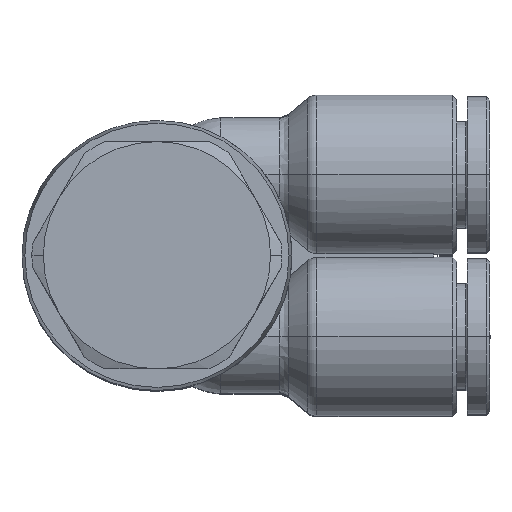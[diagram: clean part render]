
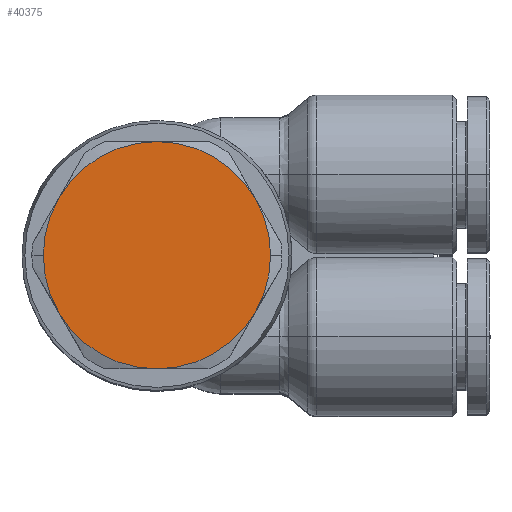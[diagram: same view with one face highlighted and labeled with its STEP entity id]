
A CAD part, top view. The second image highlights one B-rep face of the part: STEP entity #40375.
In plain terms, the highlighted planar face has unit normal (0, 0, 1).
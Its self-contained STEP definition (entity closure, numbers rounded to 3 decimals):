
#3391=CARTESIAN_POINT('',(-7.5,5.7,12.));
#3392=VERTEX_POINT('',#3391);
#3400=CARTESIAN_POINT('',(-6.428,1.7,12.));
#3401=VERTEX_POINT('',#3400);
#3415=CARTESIAN_POINT('',(0.5,5.7,12.));
#3416=DIRECTION('',(0.0,0.0,1.0));
#3417=DIRECTION('',(1.0,0.0,0.0));
#3418=AXIS2_PLACEMENT_3D('',#3415,#3416,#3417);
#3419=CIRCLE('',#3418,8.);
#3420=EDGE_CURVE('',#3392,#3401,#3419,.T.);
#3430=CARTESIAN_POINT('',(8.5,5.7,12.0));
#3431=VERTEX_POINT('',#3430);
#3438=CARTESIAN_POINT('',(7.428,1.7,12.));
#3439=VERTEX_POINT('',#3438);
#3440=CARTESIAN_POINT('',(0.5,5.7,12.));
#3441=DIRECTION('',(0.0,0.0,1.0));
#3442=DIRECTION('',(1.0,0.0,0.0));
#3443=AXIS2_PLACEMENT_3D('',#3440,#3441,#3442);
#3444=CIRCLE('',#3443,8.);
#3445=EDGE_CURVE('',#3439,#3431,#3444,.T.);
#39769=CARTESIAN_POINT('',(7.428,9.7,12.));
#39770=VERTEX_POINT('',#39769);
#39793=CARTESIAN_POINT('',(0.5,13.7,12.));
#39794=VERTEX_POINT('',#39793);
#39808=CARTESIAN_POINT('',(0.5,5.7,12.));
#39809=DIRECTION('',(0.0,0.0,1.0));
#39810=DIRECTION('',(1.0,0.0,0.0));
#39811=AXIS2_PLACEMENT_3D('',#39808,#39809,#39810);
#39812=CIRCLE('',#39811,8.);
#39813=EDGE_CURVE('',#39770,#39794,#39812,.T.);
#39846=CARTESIAN_POINT('',(0.5,5.7,12.));
#39847=DIRECTION('',(0.0,0.0,1.0));
#39848=DIRECTION('',(1.0,0.0,0.0));
#39849=AXIS2_PLACEMENT_3D('',#39846,#39847,#39848);
#39850=CIRCLE('',#39849,8.);
#39851=EDGE_CURVE('',#3431,#39770,#39850,.T.);
#39863=CARTESIAN_POINT('',(0.5,-2.3,12.));
#39864=VERTEX_POINT('',#39863);
#39900=CARTESIAN_POINT('',(0.5,5.7,12.));
#39901=DIRECTION('',(0.0,0.0,1.0));
#39902=DIRECTION('',(1.0,0.0,0.0));
#39903=AXIS2_PLACEMENT_3D('',#39900,#39901,#39902);
#39904=CIRCLE('',#39903,8.);
#39905=EDGE_CURVE('',#39864,#3439,#39904,.T.);
#39930=CARTESIAN_POINT('',(0.5,5.7,12.));
#39931=DIRECTION('',(0.0,0.0,1.0));
#39932=DIRECTION('',(1.0,0.0,0.0));
#39933=AXIS2_PLACEMENT_3D('',#39930,#39931,#39932);
#39934=CIRCLE('',#39933,8.);
#39935=EDGE_CURVE('',#3401,#39864,#39934,.T.);
#39968=CARTESIAN_POINT('',(-6.428,9.7,12.));
#39969=VERTEX_POINT('',#39968);
#39970=CARTESIAN_POINT('',(0.5,5.7,12.));
#39971=DIRECTION('',(0.0,0.0,1.0));
#39972=DIRECTION('',(1.0,0.0,0.0));
#39973=AXIS2_PLACEMENT_3D('',#39970,#39971,#39972);
#39974=CIRCLE('',#39973,8.);
#39975=EDGE_CURVE('',#39969,#3392,#39974,.T.);
#40022=CARTESIAN_POINT('',(0.5,5.7,12.));
#40023=DIRECTION('',(0.0,0.0,1.0));
#40024=DIRECTION('',(1.0,0.0,0.0));
#40025=AXIS2_PLACEMENT_3D('',#40022,#40023,#40024);
#40026=CIRCLE('',#40025,8.);
#40027=EDGE_CURVE('',#39794,#39969,#40026,.T.);
#40360=CARTESIAN_POINT('',(5.25,5.7,12.));
#40361=DIRECTION('',(0.0,0.0,1.0));
#40362=DIRECTION('',(-1.0,0.0,0.0));
#40363=AXIS2_PLACEMENT_3D('',#40360,#40361,#40362);
#40364=PLANE('',#40363);
#40365=ORIENTED_EDGE('',*,*,#40027,.T.);
#40366=ORIENTED_EDGE('',*,*,#39975,.T.);
#40367=ORIENTED_EDGE('',*,*,#3420,.T.);
#40368=ORIENTED_EDGE('',*,*,#39935,.T.);
#40369=ORIENTED_EDGE('',*,*,#39905,.T.);
#40370=ORIENTED_EDGE('',*,*,#3445,.T.);
#40371=ORIENTED_EDGE('',*,*,#39851,.T.);
#40372=ORIENTED_EDGE('',*,*,#39813,.T.);
#40373=EDGE_LOOP('',(#40365,#40366,#40367,#40368,#40369,#40370,#40371,#40372));
#40374=FACE_OUTER_BOUND('',#40373,.T.);
#40375=ADVANCED_FACE('',(#40374),#40364,.T.);
